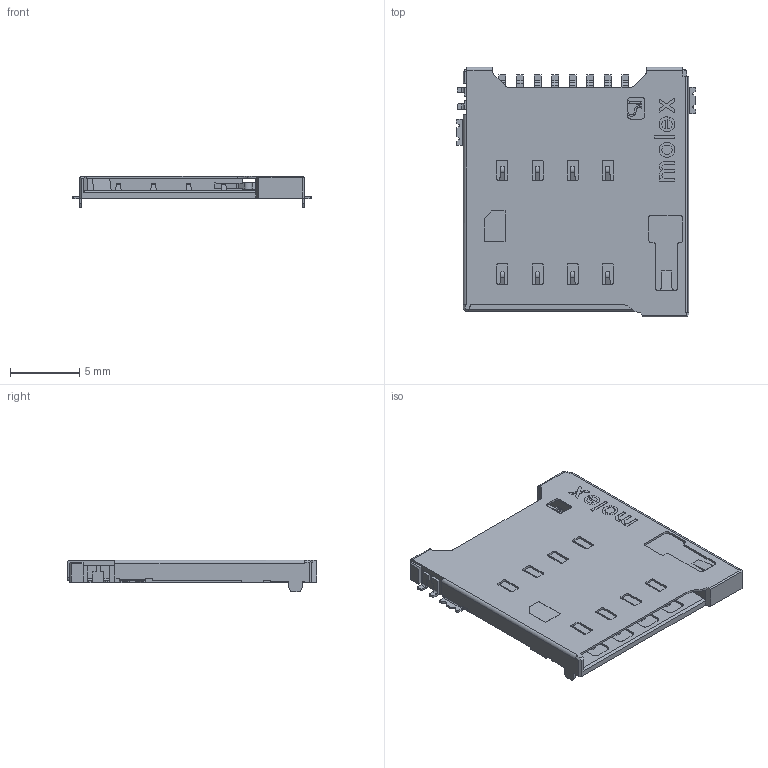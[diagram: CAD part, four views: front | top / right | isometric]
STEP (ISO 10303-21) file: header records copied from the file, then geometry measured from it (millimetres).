
FILE_DESCRIPTION(('STEP AP214'),'1');
FILE_NAME('104118-0811.stp','2019-11-14T18:43:43',('TraceParts'),('TraceParts S.A.'),'Spatial InterOp 3D',' ',' ');
FILE_SCHEMA(('AUTOMOTIVE_DESIGN { 1 0 10303 214 1 1 1 1 }'));
Length unit declared in the file: millimetre
Products named in the file (1): 104118-0811_1
Bounding box: 17.29 x 18.05 x 2.3 mm (x, y, z)
Volume: 251.1 mm3; surface area: 1087.4 mm2
Topology: 1 solids, 1 shells, 879 faces, 2498 edges, 1734 vertices
Faces by surface type: plane 643, cylinder 234, bspline 2
Entity records: 28488 total; most frequent: CARTESIAN_POINT 5262, ORIENTED_EDGE 4852, DIRECTION 4651, EDGE_CURVE 2426, LINE 2015, VECTOR 2015, VERTEX_POINT 1590, AXIS2_PLACEMENT_3D 1318
